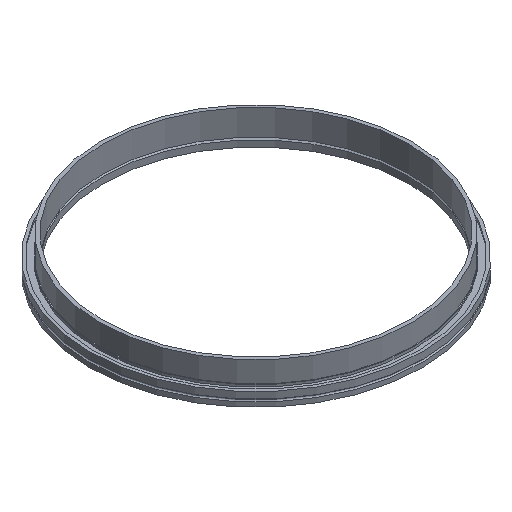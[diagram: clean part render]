
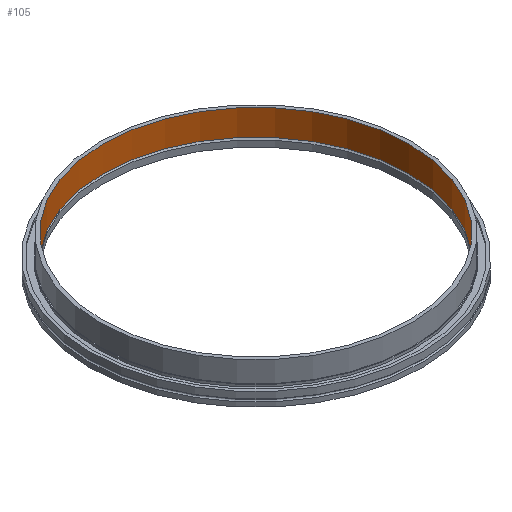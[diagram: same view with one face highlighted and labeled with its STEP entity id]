
A CAD part, isometric view. The second image highlights one B-rep face of the part: STEP entity #105.
In plain terms, the highlighted cylindrical face has radius 133.5 mm (diameter 267 mm), a full revolution.
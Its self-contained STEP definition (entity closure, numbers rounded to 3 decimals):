
#105 = ADVANCED_FACE( '', ( #197, #198 ), #199, .F. );
#197 = FACE_OUTER_BOUND( '', #279, .T. );
#198 = FACE_OUTER_BOUND( '', #280, .T. );
#199 = CYLINDRICAL_SURFACE( '', #281, 133.5 );
#279 = EDGE_LOOP( '', ( #371 ) );
#280 = EDGE_LOOP( '', ( #372 ) );
#281 = AXIS2_PLACEMENT_3D( '', #373, #374, #375 );
#371 = ORIENTED_EDGE( '', *, *, #417, .F. );
#372 = ORIENTED_EDGE( '', *, *, #408, .T. );
#373 = CARTESIAN_POINT( '', ( 0., 22.5, 0. ) );
#374 = DIRECTION( '', ( 0., 1., 0. ) );
#375 = DIRECTION( '', ( 0., 0., -1. ) );
#408 = EDGE_CURVE( '', #442, #442, #443, .T. );
#417 = EDGE_CURVE( '', #457, #457, #458, .T. );
#442 = VERTEX_POINT( '', #493 );
#443 = CIRCLE( '', #494, 133.5 );
#457 = VERTEX_POINT( '', #508 );
#458 = CIRCLE( '', #509, 133.5 );
#493 = CARTESIAN_POINT( '', ( 0., 0., -133.5 ) );
#494 = AXIS2_PLACEMENT_3D( '', #543, #544, #545 );
#508 = CARTESIAN_POINT( '', ( 0., 22.5, -133.5 ) );
#509 = AXIS2_PLACEMENT_3D( '', #561, #562, #563 );
#543 = CARTESIAN_POINT( '', ( 0., 0., 0. ) );
#544 = DIRECTION( '', ( 0., -1., 0. ) );
#545 = DIRECTION( '', ( 0., 0., -1. ) );
#561 = CARTESIAN_POINT( '', ( 0., 22.5, 0. ) );
#562 = DIRECTION( '', ( 0., -1., 0. ) );
#563 = DIRECTION( '', ( 0., 0., -1. ) );
